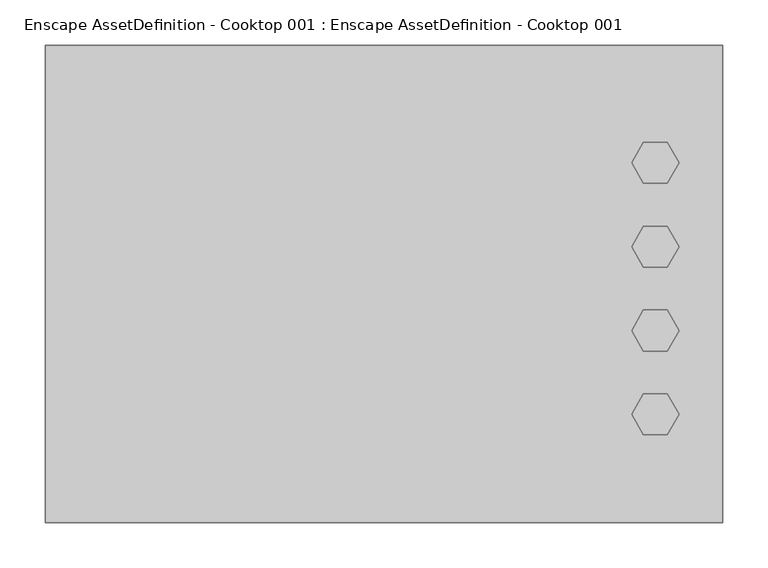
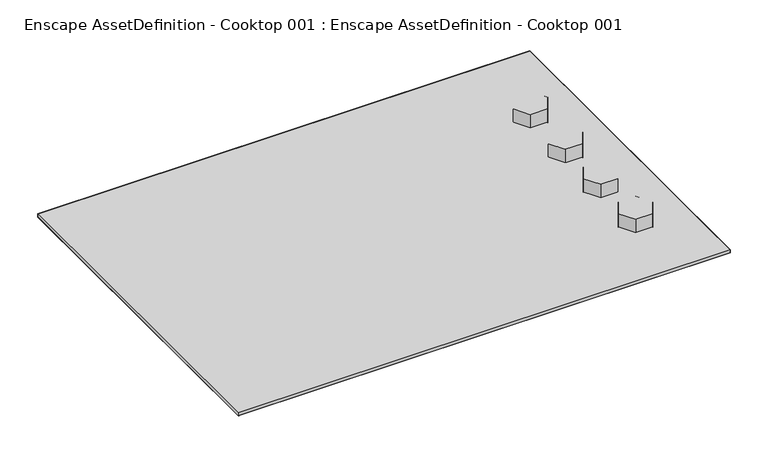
"""IFC4 building model written with IfcOpenShell, lengths in millimetres: geographic element geometry, Enscape AssetDefinition - Cooktop 001 : Enscape AssetDefinition - Cooktop 001."""

import ifcopenshell
import ifcopenshell.guid

model = None  # the IFC model being written
_history = None  # IfcOwnerHistory: only IFC2X3 demands one
_inside = {}  # id of a spatial element -> (the spatial element, [elements in it])
_under = {}  # id of a project, library or spatial element -> (it, [spatial elements below it])
_declared = {}  # id of a project -> (the project, [libraries it declares])
_typed = {}  # id of a type object -> (the type object, [elements of that type])
_made_of = {}  # id of a material, layer set ... -> (it, [elements and type objects made of it])


def new_model(schema):
    """Start an empty IFC model of exactly this schema.

    Asked for "IFC4X3", IfcOpenShell would pick the latest addendum, in which some entities
    have other attributes; the version numbers below select the first issue.
    IFC2X3 requires an IfcOwnerHistory on every rooted entity: one is made here for all.
    """
    global model, _history
    if schema == "IFC4X3":
        model = ifcopenshell.file(schema_version=(4, 3, 0, 0))
    else:
        model = ifcopenshell.file(schema=schema)
    _inside.clear()
    _under.clear()
    _declared.clear()
    _typed.clear()
    _made_of.clear()
    _history = None
    if model.schema == "IFC2X3":
        org = make("IfcOrganization", Name="unknown")
        user = make(
            "IfcPersonAndOrganization",
            ThePerson=make("IfcPerson", FamilyName="unknown"),
            TheOrganization=org,
        )
        app = make(
            "IfcApplication",
            ApplicationDeveloper=org,
            Version="unknown",
            ApplicationFullName="unknown",
            ApplicationIdentifier="unknown",
        )
        _history = make(
            "IfcOwnerHistory",
            OwningUser=user,
            OwningApplication=app,
            ChangeAction="ADDED",
            CreationDate=0,
        )
    return model


def make(cls, **values):
    """One entity of the class cls with the attributes given. An attribute that is None is left unset."""
    return model.create_entity(
        cls, **{name: value for name, value in values.items() if value is not None}
    )


def rooted(cls, **values):
    """An entity with a GlobalId (a new one), such as an element, a storey or a relation."""
    return make(cls, GlobalId=ifcopenshell.guid.new(), OwnerHistory=_history, **values)


def si_unit(unit_type, name, prefix=None):
    """IfcSIUnit, for example si_unit("LENGTHUNIT", "METRE", prefix="MILLI")."""
    return make("IfcSIUnit", UnitType=unit_type, Prefix=prefix, Name=name)


def assignment(units):
    """IfcUnitAssignment: the units of a project."""
    return None if units is None else make("IfcUnitAssignment", Units=units)


def point(xyz):
    """IfcCartesianPoint."""
    return None if xyz is None else make("IfcCartesianPoint", Coordinates=xyz)


def direction(xyz):
    """IfcDirection."""
    return None if xyz is None else make("IfcDirection", DirectionRatios=xyz)


def frame(location, z_axis=None, x_axis=None):
    """IfcAxis2Placement3D, a coordinate frame: its origin and axes. An axis left out is left unset."""
    return make(
        "IfcAxis2Placement3D",
        Location=point(location),
        Axis=direction(z_axis),
        RefDirection=direction(x_axis),
    )


def origin():
    """The frame at (0, 0, 0) with its axes left unset."""
    return frame((0.0, 0.0, 0.0))


def place(relative_to, where):
    """IfcLocalPlacement: puts the frame where relative to a parent placement (None: the world)."""
    return make(
        "IfcLocalPlacement", PlacementRelTo=relative_to, RelativePlacement=where
    )


def context(
    kind, dimensions, precision=None, world=None, true_north=None, identifier=None
):
    """IfcGeometricRepresentationContext, for example the 3D "Model" context."""
    return make(
        "IfcGeometricRepresentationContext",
        ContextIdentifier=identifier,
        ContextType=kind,
        CoordinateSpaceDimension=dimensions,
        Precision=precision,
        WorldCoordinateSystem=world,
        TrueNorth=true_north,
    )


def project(units=None, contexts=None):
    """IfcProject with its units and contexts."""
    return rooted(
        "IfcProject",
        Name="project",
        RepresentationContexts=contexts,
        UnitsInContext=assignment(units),
    )


def spatial(cls, under=None, at=None, **own):
    """A site, building, storey or space (cls), placed at a placement, below another one or the project."""
    s = rooted(cls, ObjectPlacement=at, **own)
    if under is not None:
        _under.setdefault(under.id(), (under, []))[1].append(s)
    return s


def point_list(points):
    """IfcCartesianPointList2D or 3D."""
    cls = (
        "IfcCartesianPointList2D" if len(points[0]) == 2 else "IfcCartesianPointList3D"
    )
    return make(cls, CoordList=points)


def triangles(points, corners, closed=None, point_numbers=None):
    """IfcTriangulatedFaceSet: each triangle names its three corners, points numbered from 1."""
    return make(
        "IfcTriangulatedFaceSet",
        Coordinates=point_list(points),
        Closed=closed,
        CoordIndex=corners,
        PnIndex=point_numbers,
    )


def shape(context_of_items, identifier, shape_type, items):
    """IfcShapeRepresentation: the items that make up one representation, for example the "Body"."""
    return make(
        "IfcShapeRepresentation",
        ContextOfItems=context_of_items,
        RepresentationIdentifier=identifier,
        RepresentationType=shape_type,
        Items=items,
    )


def source(mapping_origin, context_of_items, identifier, shape_type, items):
    """IfcRepresentationMap: a shape defined once, which mapped items show again and again."""
    return make(
        "IfcRepresentationMap",
        MappingOrigin=mapping_origin,
        MappedRepresentation=shape(context_of_items, identifier, shape_type, items),
    )


def transform(
    local_origin,
    x_axis=None,
    y_axis=None,
    z_axis=None,
    scale=None,
    scale2=None,
    scale3=None,
    uniform=True,
):
    """IfcCartesianTransformationOperator3D, or its non-uniform kind. x_axis, y_axis, z_axis: its Axis1, 2, 3."""
    if uniform:
        return make(
            "IfcCartesianTransformationOperator3D",
            Axis1=direction(x_axis),
            Axis2=direction(y_axis),
            LocalOrigin=point(local_origin),
            Scale=scale,
            Axis3=direction(z_axis),
        )
    return make(
        "IfcCartesianTransformationOperator3DnonUniform",
        Axis1=direction(x_axis),
        Axis2=direction(y_axis),
        LocalOrigin=point(local_origin),
        Scale=scale,
        Axis3=direction(z_axis),
        Scale2=scale2,
        Scale3=scale3,
    )


def mapped(mapping_source, mapping_target):
    """IfcMappedItem: shows the shape of a source again, moved by a transform."""
    return make(
        "IfcMappedItem", MappingSource=mapping_source, MappingTarget=mapping_target
    )


def made_of(thing, what):
    """Note that an element or type object is made of a material, layer set ...; save() writes the relation."""
    if what is not None:
        _made_of.setdefault(what.id(), (what, []))[1].append(thing)
    return thing


def element(
    cls,
    number,
    at=None,
    inside=None,
    cuts=None,
    type_object=None,
    material=None,
    context=None,
    identifier="Body",
    shape_type=None,
    held_by="IfcProductDefinitionShape",
    body=None,
    shapes=None,
    **own,
):
    """One element of the class cls, such as IfcWall. Its Tag is "e" and its number.

    at: its placement. inside: the storey or other place that contains it. cuts: it is an
    opening in that element (IfcRelVoidsElement). A single representation is given by context,
    identifier, shape_type and body (its items); several are given by shapes. held_by: the class
    of the entity that holds the representations. save() writes the other relations.
    """
    e = rooted(cls, Tag="e%d" % number, ObjectPlacement=at, **own)
    if body is not None:
        shapes = [shape(context, identifier, shape_type, body)]
    if shapes is not None:
        e.Representation = make(held_by, Representations=shapes)
    if inside is not None:
        _inside.setdefault(inside.id(), (inside, []))[1].append(e)
    if cuts is not None:
        rooted(
            "IfcRelVoidsElement", RelatingBuildingElement=cuts, RelatedOpeningElement=e
        )
    if type_object is not None:
        _typed.setdefault(type_object.id(), (type_object, []))[1].append(e)
    return made_of(e, material)


def aggregate(whole, parts):
    """IfcRelAggregates: a whole, such as a stair, and the parts it consists of."""
    return rooted("IfcRelAggregates", RelatingObject=whole, RelatedObjects=parts)


def save(model, path):
    """Write the relations noted so far, then the file.

    IfcRelAggregates (storeys below a building ...), IfcRelContainedInSpatialStructure (elements
    in a storey), IfcRelDefinesByType, IfcRelAssociatesMaterial and IfcRelDeclares: one each for
    every whole, place, type object, material and project.
    """
    for whole, parts in _under.values():
        aggregate(whole, parts)
    for where, things in _inside.values():
        rooted(
            "IfcRelContainedInSpatialStructure",
            RelatedElements=things,
            RelatingStructure=where,
        )
    for kind, things in _typed.values():
        rooted("IfcRelDefinesByType", RelatedObjects=things, RelatingType=kind)
    for what, things in _made_of.values():
        rooted("IfcRelAssociatesMaterial", RelatedObjects=things, RelatingMaterial=what)
    for by, libraries in _declared.values():
        rooted("IfcRelDeclares", RelatingContext=by, RelatedDefinitions=libraries)
    model.write(path)


def enscape_assetdefinition_cooktop_001_enscape_assetdefinition_00335e73(model_context):
    return source(origin(), model_context, "Body", "Tessellation", [
        triangles([(375.0000029, 264.35801, 4.9999997), (-375.0000029, -264.1409992, 4.9999997), (375.0000029, -264.1409992, 4.9999997), (375.0000029, -264.1409992, 0.0), (375.0000029, 264.35801, 0.0), (-375.0000029, 264.35801, 4.9999997), (-375.0000029, -264.1409992, 0.0), (-375.0000029, 264.35801, 0.0), (313.4500171, -121.4179976, 26.1170014), (313.4500171, -166.9710038, 3.8389999), (326.5999775, -144.1950048, 3.8389999), (313.4500171, -121.4179976, 3.8389999), (326.5999775, -144.1950048, 26.1170014), (313.4500171, -166.9710038, 26.1170014), (287.1499872, -166.9710038, 26.1170014), (287.1499872, -166.9710038, 3.8389999), (273.9990094, -144.1950048, 26.1170014), (287.1499872, -121.4179976, 26.1170014), (287.1499872, -121.4179976, 3.8389999), (273.9990094, -144.1950048, 3.8389999), (313.4500171, -28.6599989, 26.1170014), (326.5999775, -51.4370039, 26.1170014), (326.5999775, -51.4370039, 3.8389999), (313.4500171, -28.6599989, 3.8389999), (287.1499872, -74.2139975, 3.8389999), (313.4500171, -74.2139975, 3.8389999), (313.4500171, -74.2139975, 26.1170014), (273.9990094, -51.4370039, 3.8389999), (287.1499872, -28.6599989, 26.1170014), (273.9990094, -51.4370039, 26.1170014), (287.1499872, -74.2139975, 26.1170014), (287.1499872, -28.6599989, 3.8389999), (326.5999775, 41.3199979, 3.8389999), (313.4500171, 64.0970006, 3.8389999), (287.1499872, 64.0970006, 3.8389999), (313.4500171, 64.0970006, 26.1170014), (313.4500171, 18.5429997, 3.8389999), (313.4500171, 18.5429997, 26.1170014), (326.5999775, 41.3199979, 26.1170014), (287.1499872, 18.5429997, 26.1170014), (287.1499872, 18.5429997, 3.8389999), (273.9990094, 41.3199979, 3.8389999), (273.9990094, 41.3199979, 26.1170014), (287.1499872, 64.0970006, 26.1170014), (313.4500171, 156.8539978, 26.1170014), (326.5999775, 134.0779988, 3.8389999), (313.4500171, 156.8539978, 3.8389999), (287.1499872, 156.8539978, 26.1170014), (326.5999775, 134.0779988, 26.1170014), (313.4500171, 111.3010006, 26.1170014), (313.4500171, 111.3010006, 3.8389999), (287.1499872, 111.3010006, 26.1170014), (287.1499872, 111.3010006, 3.8389999), (273.9990094, 134.0779988, 3.8389999), (287.1499872, 156.8539978, 3.8389999), (273.9990094, 134.0779988, 26.1170014)], [[55, 54, 56], [56, 48, 55], [48, 56, 52], [52, 56, 54], [54, 53, 52], [50, 52, 53], [53, 51, 50], [50, 49, 52], [49, 48, 52], [49, 50, 51], [49, 45, 48], [48, 45, 47], [47, 55, 48], [51, 46, 49], [45, 49, 46], [46, 47, 45], [35, 42, 43], [43, 44, 35], [44, 43, 40], [40, 43, 42], [42, 41, 40], [38, 40, 41], [41, 37, 38], [38, 39, 40], [39, 44, 40], [39, 38, 37], [39, 36, 44], [44, 36, 34], [34, 35, 44], [37, 33, 39], [36, 39, 33], [33, 34, 36], [32, 28, 30], [30, 29, 32], [29, 30, 31], [31, 30, 28], [28, 25, 31], [27, 31, 25], [25, 26, 27], [27, 22, 31], [22, 29, 31], [22, 27, 26], [22, 21, 29], [29, 21, 24], [24, 32, 29], [26, 23, 22], [21, 22, 23], [23, 24, 21], [19, 20, 17], [17, 18, 19], [18, 17, 15], [15, 17, 20], [20, 16, 15], [14, 15, 16], [16, 10, 14], [14, 13, 15], [13, 18, 15], [13, 14, 10], [13, 9, 18], [18, 9, 12], [12, 19, 18], [10, 11, 13], [9, 13, 11], [11, 12, 9], [5, 4, 7], [7, 8, 5], [5, 8, 6], [6, 1, 5], [4, 5, 1], [1, 3, 4], [7, 4, 3], [2, 6, 8], [8, 7, 2], [3, 2, 7], [1, 6, 2], [2, 3, 1]], closed=False),
    ])


if __name__ == "__main__":
    model = new_model("IFC4")
    model_context = context("Model", 3, world=origin())
    ifc_project = project(units=[si_unit("LENGTHUNIT", "METRE", prefix="MILLI")], contexts=[model_context])
    site = spatial("IfcSite", under=ifc_project)
    building = spatial("IfcBuilding", under=site)
    placement = place(None, origin())
    enscape_assetdefinition_cooktop_001_enscape_assetdefinition_shape = enscape_assetdefinition_cooktop_001_enscape_assetdefinition_00335e73(model_context)
    element("IfcGeographicElement", 1, ObjectType="Enscape AssetDefinition - Cooktop 001 : Enscape AssetDefinition - Cooktop 001", at=placement, inside=building, context=model_context, shape_type="MappedRepresentation", body=[
        mapped(enscape_assetdefinition_cooktop_001_enscape_assetdefinition_shape, transform((0.0, 0.0, 0.0), x_axis=(1.0, 0.0, 0.0), y_axis=(0.0, 1.0, 0.0), z_axis=(0.0, 0.0, 1.0))),
    ])
    save(model, "model.ifc")
